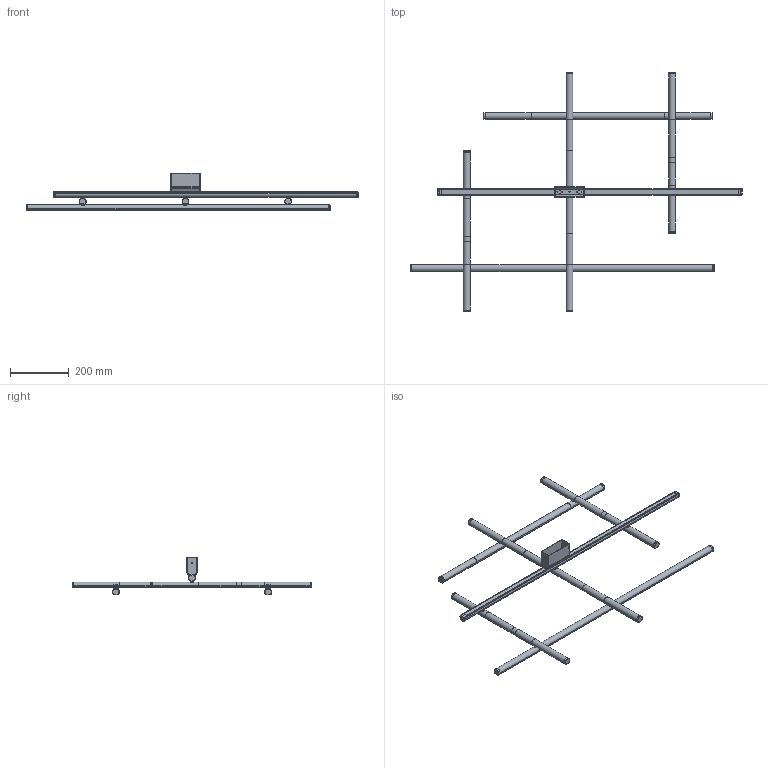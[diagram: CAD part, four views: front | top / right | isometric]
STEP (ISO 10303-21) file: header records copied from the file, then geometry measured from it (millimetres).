
FILE_DESCRIPTION(/* description */ (''),/* implementation_level */ '2;1');
FILE_NAME(/* name */ 'P028__~2',/* time_stamp */ '2024-06-28T17:21:28+02:00',/* author */ (''),/* organization */ (''),/* preprocessor_version */ 'ST-DEVELOPER v16.5',/* originating_system */ '',/* authorisation */ '');
FILE_SCHEMA (('AUTOMOTIVE_DESIGN'));
Length unit declared in the file: millimetre
Products named in the file (1): Document
Bounding box: 1131.82 x 818 x 127.57 mm (x, y, z)
Volume: 1587221.2 mm3; surface area: 666450.5 mm2
Topology: 20 solids, 32 shells, 1582 faces, 3688 edges, 2110 vertices
Faces by surface type: bspline 1048, plane 534
Entity records: 52004 total; most frequent: CARTESIAN_POINT 30213, ORIENTED_EDGE 7248, EDGE_CURVE 3648, VERTEX_POINT 2110, B_SPLINE_CURVE_WITH_KNOTS 2025, EDGE_LOOP 1610, ADVANCED_FACE 1582, FACE_OUTER_BOUND 1582
